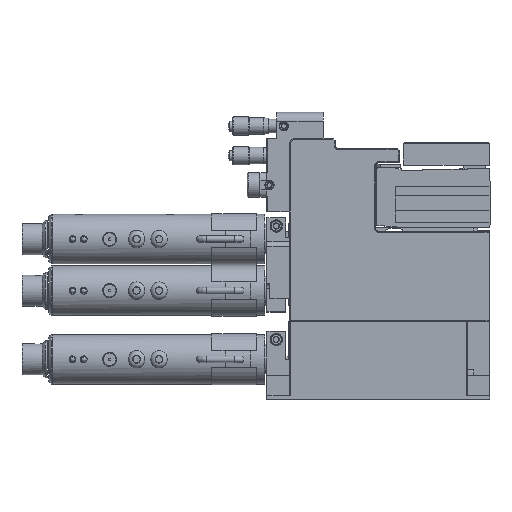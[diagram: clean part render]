
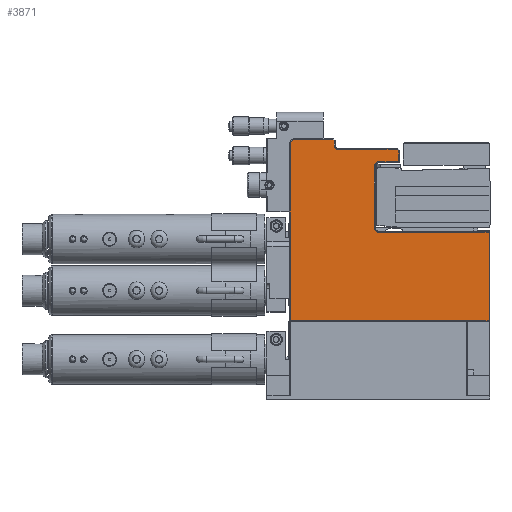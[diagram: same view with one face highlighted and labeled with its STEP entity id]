
A CAD part, top view. The second image highlights one B-rep face of the part: STEP entity #3871.
In plain terms, the highlighted planar face has unit normal (0, 0, 1).
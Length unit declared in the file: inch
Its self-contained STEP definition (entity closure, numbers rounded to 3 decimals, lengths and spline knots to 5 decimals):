
#3871=ADVANCED_FACE('P5A-BBBMM-HN-I[2]',(#12599),#12600,.T.);
#4051=EDGE_CURVE('P5A-BBBMM-HN-I[2]',#12881,#12882,#12883,.T.);
#4976=EDGE_CURVE('P5A-BBBMM-HN-I[2]',#14340,#13272,#14341,.T.);
#5058=EDGE_CURVE('P5A-BBBMM-HN-I[2]',#14458,#14459,#14460,.T.);
#5825=EDGE_CURVE('P5A-BBBMM-HN-I[2]',#13272,#15595,#15596,.T.);
#5863=EDGE_CURVE('P5A-BBBMM-HN-I[2]',#12882,#15645,#15646,.T.);
#6869=EDGE_CURVE('P5A-BBBMM-HN-I[2]',#17057,#17058,#17059,.T.);
#6908=EDGE_CURVE('P5A-BBBMM-HN-I[2]',#14459,#16411,#17111,.T.);
#8285=EDGE_CURVE('P5A-BBBMM-HN-I[2]',#18947,#17057,#18948,.F.);
#8393=EDGE_CURVE('P5A-BBBMM-HN-I[2]',#17058,#16185,#19080,.T.);
#8928=EDGE_CURVE('P5A-BBBMM-HN-I[2]',#16411,#19780,#19781,.T.);
#9544=EDGE_CURVE('P5A-BBBMM-HN-I[2]',#15955,#18947,#20549,.T.);
#9691=EDGE_CURVE('P5A-BBBMM-HN-I[2]',#15645,#14340,#20741,.T.);
#10188=EDGE_CURVE('P5A-BBBMM-HN-I[2]',#19780,#18430,#21364,.T.);
#10239=EDGE_CURVE('P5A-BBBMM-HN-I[2]',#16185,#14458,#21424,.T.);
#11457=EDGE_CURVE('P5A-BBBMM-HN-I[2]',#15955,#15595,#22902,.T.);
#12188=EDGE_CURVE('P5A-BBBMM-HN-I[2]',#18430,#12881,#23774,.T.);
#12599=FACE_OUTER_BOUND('',#24335,.T.);
#12600=PLANE('',#24336);
#12881=VERTEX_POINT('',#24810);
#12882=VERTEX_POINT('',#24811);
#12883=CIRCLE('',#24812,0.085);
#13272=VERTEX_POINT('',#25553);
#14340=VERTEX_POINT('',#27817);
#14341=LINE('',#27818,#27819);
#14458=VERTEX_POINT('',#28037);
#14459=VERTEX_POINT('',#28038);
#14460=CIRCLE('',#28039,0.085);
#15595=VERTEX_POINT('',#29984);
#15596=LINE('',#29985,#29986);
#15645=VERTEX_POINT('',#30090);
#15646=LINE('',#30091,#30092);
#15955=VERTEX_POINT('',#30613);
#16185=VERTEX_POINT('',#31013);
#16411=VERTEX_POINT('',#31405);
#17057=VERTEX_POINT('',#32578);
#17058=VERTEX_POINT('',#32579);
#17059=LINE('',#32580,#32581);
#17111=LINE('',#32659,#32660);
#18430=VERTEX_POINT('',#36119);
#18947=VERTEX_POINT('',#37263);
#18948=CIRCLE('',#37264,0.11);
#19080=LINE('',#37538,#37539);
#19780=VERTEX_POINT('',#38896);
#19781=LINE('',#38897,#38898);
#20549=LINE('',#40219,#40220);
#20741=CIRCLE('',#40491,0.085);
#21364=LINE('',#42144,#42145);
#21424=LINE('',#42310,#42311);
#22902=LINE('',#45029,#45030);
#23774=LINE('',#47094,#47095);
#24335=EDGE_LOOP('',(#47731,#47732,#47733,#47734,#47735,#47736,#47737,#47738,#47739,#47740,#47741,#47742,#47743,#47744,#47745,#47746));
#24336=AXIS2_PLACEMENT_3D('',#47747,#47748,#47749);
#24810=CARTESIAN_POINT('',(-3.245,-0.895,0.875));
#24811=CARTESIAN_POINT('',(-3.33,-0.98,0.875));
#24812=AXIS2_PLACEMENT_3D('',#48003,#48004,#48005);
#25553=CARTESIAN_POINT('',(-1.02,-2.32,0.875));
#27817=CARTESIAN_POINT('',(-3.245,-2.32,0.875));
#27818=CARTESIAN_POINT('',(-2.07125,-2.32,0.875));
#27819=VECTOR('',#49446,1.0);
#28037=CARTESIAN_POINT('',(-4.145,-0.56,0.875));
#28038=CARTESIAN_POINT('',(-4.06,-0.645,0.875));
#28039=AXIS2_PLACEMENT_3D('',#49554,#49555,#49556);
#29984=CARTESIAN_POINT('',(-1.02,-4.1,0.875));
#29985=CARTESIAN_POINT('',(-1.02,-3.485,0.875));
#29986=VECTOR('',#50751,1.0);
#30090=CARTESIAN_POINT('',(-3.33,-2.235,0.875));
#30091=CARTESIAN_POINT('',(-3.33,-2.29125,0.875));
#30092=VECTOR('',#50807,1.0);
#30613=CARTESIAN_POINT('',(-5.03,-4.1,0.875));
#31013=CARTESIAN_POINT('',(-4.145,-0.46828,0.875));
#31405=CARTESIAN_POINT('',(-2.87328,-0.645,0.875));
#32578=CARTESIAN_POINT('',(-4.92,-0.44,0.875));
#32579=CARTESIAN_POINT('',(-4.17328,-0.44,0.875));
#32580=CARTESIAN_POINT('',(-3.025,-0.44,0.875));
#32581=VECTOR('',#52307,1.0);
#32659=CARTESIAN_POINT('',(-3.225,-0.645,0.875));
#32660=VECTOR('',#52370,1.0);
#36119=CARTESIAN_POINT('',(-2.845,-0.895,0.875));
#37263=CARTESIAN_POINT('',(-5.03,-0.55,0.875));
#37264=AXIS2_PLACEMENT_3D('',#54401,#54402,#54403);
#37538=CARTESIAN_POINT('',(-3.23914,-1.37414,0.875));
#37539=VECTOR('',#54567,1.0);
#38896=CARTESIAN_POINT('',(-2.845,-0.67328,0.875));
#38897=CARTESIAN_POINT('',(-2.31539,-1.20289,0.875));
#38898=VECTOR('',#55383,1.0);
#40219=CARTESIAN_POINT('',(-5.03,-1.73232,0.875));
#40220=VECTOR('',#56306,1.0);
#40491=AXIS2_PLACEMENT_3D('',#56562,#56563,#56564);
#42144=CARTESIAN_POINT('',(-2.845,-1.875,0.875));
#42145=VECTOR('',#57332,1.0);
#42310=CARTESIAN_POINT('',(-4.145,-1.74875,0.875));
#42311=VECTOR('',#57397,1.0);
#45029=CARTESIAN_POINT('',(-3.025,-4.1,0.875));
#45030=VECTOR('',#59279,1.0);
#47094=CARTESIAN_POINT('',(-3.02375,-0.895,0.875));
#47095=VECTOR('',#60348,1.0);
#47731=ORIENTED_EDGE('',*,*,#6869,.F.);
#47732=ORIENTED_EDGE('',*,*,#8285,.F.);
#47733=ORIENTED_EDGE('',*,*,#9544,.F.);
#47734=ORIENTED_EDGE('',*,*,#11457,.T.);
#47735=ORIENTED_EDGE('',*,*,#5825,.F.);
#47736=ORIENTED_EDGE('',*,*,#4976,.F.);
#47737=ORIENTED_EDGE('',*,*,#9691,.F.);
#47738=ORIENTED_EDGE('',*,*,#5863,.F.);
#47739=ORIENTED_EDGE('',*,*,#4051,.F.);
#47740=ORIENTED_EDGE('',*,*,#12188,.F.);
#47741=ORIENTED_EDGE('',*,*,#10188,.F.);
#47742=ORIENTED_EDGE('',*,*,#8928,.F.);
#47743=ORIENTED_EDGE('',*,*,#6908,.F.);
#47744=ORIENTED_EDGE('',*,*,#5058,.F.);
#47745=ORIENTED_EDGE('',*,*,#10239,.F.);
#47746=ORIENTED_EDGE('',*,*,#8393,.F.);
#47747=CARTESIAN_POINT('',(-3.025,-3.0,0.875));
#47748=DIRECTION('',(0.0,0.0,1.0));
#47749=DIRECTION('',(0.0,-1.0,0.0));
#48003=CARTESIAN_POINT('',(-3.245,-0.98,0.875));
#48004=DIRECTION('',(0.0,0.0,1.0));
#48005=DIRECTION('',(-0.707,0.707,0.0));
#49446=DIRECTION('',(1.0,0.0,0.0));
#49554=CARTESIAN_POINT('',(-4.06,-0.56,0.875));
#49555=DIRECTION('',(0.0,0.0,1.0));
#49556=DIRECTION('',(-0.707,-0.707,0.0));
#50751=DIRECTION('',(0.0,-1.0,-0.0));
#50807=DIRECTION('',(0.0,-1.0,0.0));
#52307=DIRECTION('',(1.0,0.0,0.0));
#52370=DIRECTION('',(1.0,0.0,0.0));
#54401=CARTESIAN_POINT('',(-4.92,-0.55,0.875));
#54402=DIRECTION('',(0.0,0.0,1.0));
#54403=DIRECTION('',(-0.707,0.707,0.0));
#54567=DIRECTION('',(0.707,-0.707,0.0));
#55383=DIRECTION('',(0.707,-0.707,0.0));
#56306=DIRECTION('',(0.0,1.0,0.0));
#56562=CARTESIAN_POINT('',(-3.245,-2.235,0.875));
#56563=DIRECTION('',(0.0,0.0,1.0));
#56564=DIRECTION('',(-0.707,-0.707,0.0));
#57332=DIRECTION('',(0.0,-1.0,0.0));
#57397=DIRECTION('',(0.0,-1.0,-0.0));
#59279=DIRECTION('',(1.0,0.0,0.0));
#60348=DIRECTION('',(-1.0,0.0,0.0));
